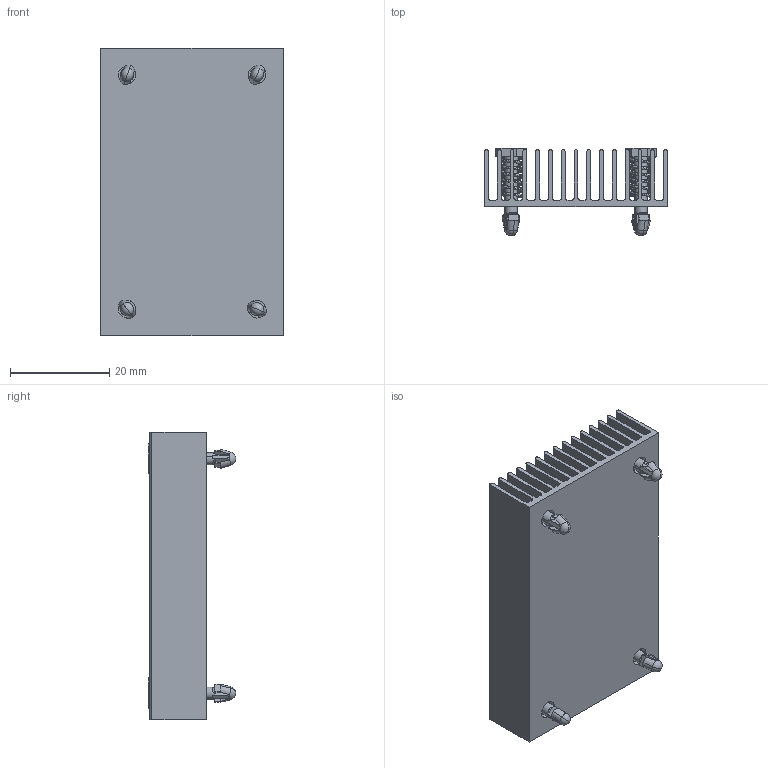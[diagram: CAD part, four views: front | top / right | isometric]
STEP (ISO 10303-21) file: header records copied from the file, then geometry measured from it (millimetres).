
FILE_DESCRIPTION (( 'STEP AP214' ), '1' );
FILE_NAME ('HS1568EBK01.STEP', '2023-03-03T15:52:04', ( '' ), ( '' ), 'SwSTEP 2.0', 'SolidWorks 2020', '' );
FILE_SCHEMA (( 'AUTOMOTIVE_DESIGN' ));
Length unit declared in the file: millimetre
Products named in the file (1): HS1568EBK01
Bounding box: 36.83 x 17.59 x 57.91 mm (x, y, z)
Volume: 9455 mm3; surface area: 22344 mm2
Topology: 5 solids, 5 shells, 374 faces, 1024 edges, 672 vertices
Faces by surface type: plane 187, cylinder 147, bspline 24, torus 8, cone 8
Entity records: 22712 total; most frequent: CARTESIAN_POINT 9489, ORIENTED_EDGE 2048, DIRECTION 1696, EDGE_CURVE 1024, VERTEX_POINT 672, LINE 566, VECTOR 566, AXIS2_PLACEMENT_3D 565
